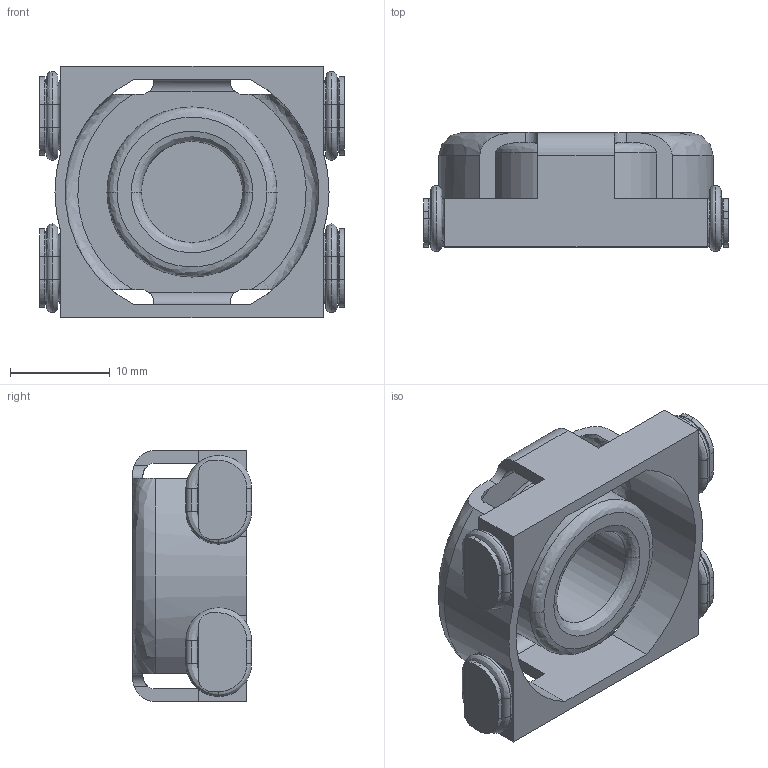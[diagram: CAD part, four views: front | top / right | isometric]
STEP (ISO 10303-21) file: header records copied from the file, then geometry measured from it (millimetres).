
FILE_DESCRIPTION (( 'STEP AP214' ), '1' );
FILE_NAME ('PA2757NL.STEP', '2016-02-23T02:05:05', ( '' ), ( '' ), 'SwSTEP 2.0', 'SolidWorks 2012', '' );
FILE_SCHEMA (( 'AUTOMOTIVE_DESIGN' ));
Length unit declared in the file: inch
Products named in the file (5): Pulse Logo; P0469^P0502; Part1^P0502; 043-1513; PA2757NL
Assembly tree (7 placements, depth 2):
  PA2757NL
    043-1513
    Part1^P0502
    P0469^P0502  x4
    Pulse Logo
Bounding box: 30.48 x 11.94 x 25.15 mm (x, y, z)
Volume: 3353.1 mm3; surface area: 4518.1 mm2
Topology: 7 solids, 7 shells, 335 faces, 971 edges, 633 vertices
Faces by surface type: cylinder 139, plane 138, bspline 58
Entity records: 14333 total; most frequent: CARTESIAN_POINT 3643, ORIENTED_EDGE 1798, DIRECTION 1664, EDGE_CURVE 899, VERTEX_POINT 591, AXIS2_PLACEMENT_3D 580, LINE 504, VECTOR 504
